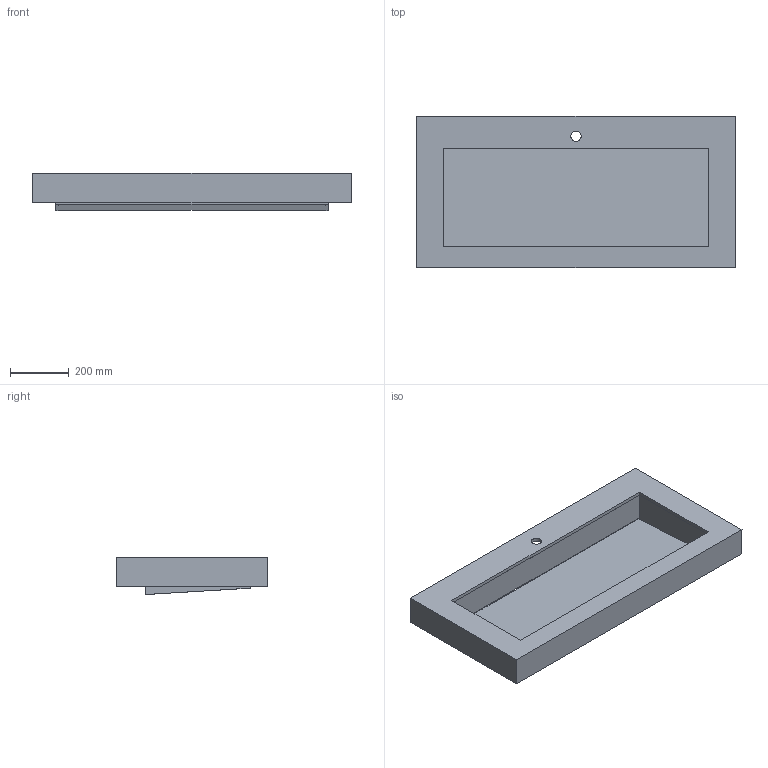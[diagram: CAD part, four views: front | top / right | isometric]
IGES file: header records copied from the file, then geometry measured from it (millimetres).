
Start section: Data from Parasolid IGES Translator 19.0.9, Copyright(c) 2006 Siemens PL M Software. All Rights Reserved.
Global section: file name: noorth-top-H 10 D 51,3 W 108_4964.igs; native system: By Siemens PLM Incorporated; preprocessor: XPlus GENERIC/IGES 19.0.9; author: Noname; organization: Noname; date: 20200603.113815; units: metre
Bounding box: 1080 x 512 x 125.7 mm (x, y, z)
Volume: 12180634.3 mm3; surface area: 2077034.8 mm2
Topology: 2 solids, 2 shells, 34 faces, 93 edges, 62 vertices
Faces by surface type: plane 33, cylinder 1
Full cylindrical faces by diameter (mm): 34.9 x1
